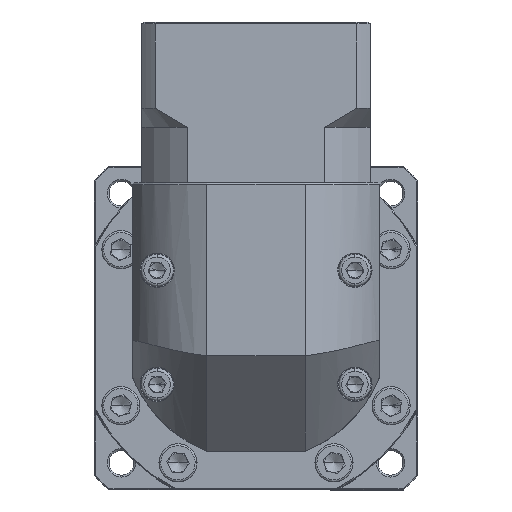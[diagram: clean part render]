
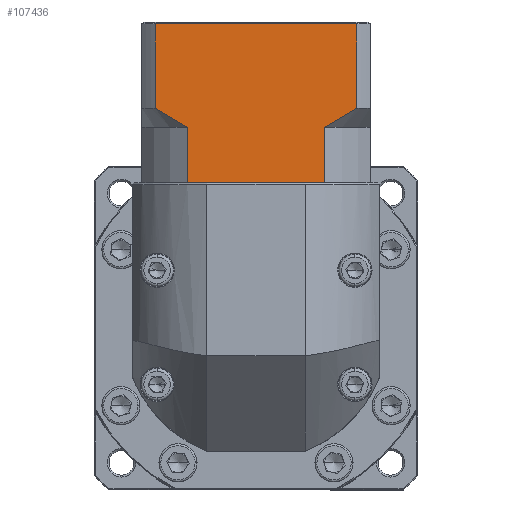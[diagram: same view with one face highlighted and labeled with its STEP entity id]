
A CAD part, top view. The second image highlights one B-rep face of the part: STEP entity #107436.
In plain terms, the highlighted planar face has unit normal (0, 0, 1).
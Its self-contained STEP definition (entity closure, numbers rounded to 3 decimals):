
#2352 = CARTESIAN_POINT ( 'NONE',  ( -102.297, 80.15, 55.04 ) ) ;
#4325 = FACE_OUTER_BOUND ( 'NONE', #72073, .T. ) ;
#5510 = VERTEX_POINT ( 'NONE', #57872 ) ;
#5659 = CARTESIAN_POINT ( 'NONE',  ( -54.928, 83.598, 55.04 ) ) ;
#8882 = VECTOR ( 'NONE', #119908, 1000. ) ;
#15360 = DIRECTION ( 'NONE',  ( 1., 0., 0. ) ) ;
#18267 = CARTESIAN_POINT ( 'NONE',  ( -107.843, 83.598, 55.04 ) ) ;
#22223 = VERTEX_POINT ( 'NONE', #157639 ) ;
#22634 = VERTEX_POINT ( 'NONE', #96094 ) ;
#24013 = VERTEX_POINT ( 'NONE', #67115 ) ;
#24732 = VERTEX_POINT ( 'NONE', #104057 ) ;
#25502 = CARTESIAN_POINT ( 'NONE',  ( -63.358, 78.598, 55.04 ) ) ;
#26724 = CARTESIAN_POINT ( 'NONE',  ( -111.386, 64.098, 55.04 ) ) ;
#26889 = EDGE_CURVE ( 'NONE', #22223, #22634, #30108, .T. ) ;
#30108 = LINE ( 'NONE', #134171, #107865 ) ;
#32363 = CARTESIAN_POINT ( 'NONE',  ( -111.386, 105.798, 55.04 ) ) ;
#34406 = EDGE_CURVE ( 'NONE', #50918, #5510, #148089, .T. ) ;
#35020 = CARTESIAN_POINT ( 'NONE',  ( -111.386, 64.098, 55.04 ) ) ;
#35640 = CARTESIAN_POINT ( 'NONE',  ( -54.928, 83.598, 55.04 ) ) ;
#38417 = CARTESIAN_POINT ( 'NONE',  ( -106.483, 82.699, 55.04 ) ) ;
#39430 = DIRECTION ( 'NONE',  ( 0., -1., 0. ) ) ;
#40487 = CARTESIAN_POINT ( 'NONE',  ( -107.843, 83.598, 55.04 ) ) ;
#40795 = CARTESIAN_POINT ( 'NONE',  ( -111.386, 64.098, 55.04 ) ) ;
#41047 = EDGE_CURVE ( 'NONE', #59353, #100212, #140060, .T. ) ;
#43634 = ORIENTED_EDGE ( 'NONE', *, *, #125442, .T. ) ;
#50438 = VERTEX_POINT ( 'NONE', #5659 ) ;
#50918 = VERTEX_POINT ( 'NONE', #107896 ) ;
#55787 = B_SPLINE_CURVE_WITH_KNOTS ( 'NONE', 3,
 ( #25502, #121058, #109847, #59978, #61556, #35640 ),
 .UNSPECIFIED., .F., .F.,
 ( 4, 2, 4 ),
 ( 0.1, 0.104, 0.109 ),
 .UNSPECIFIED. ) ;
#57600 = VECTOR ( 'NONE', #86263, 1000. ) ;
#57872 = CARTESIAN_POINT ( 'NONE',  ( -63.358, 64.098, 55.04 ) ) ;
#58185 = EDGE_CURVE ( 'NONE', #149997, #100212, #132584, .T. ) ;
#58453 = CARTESIAN_POINT ( 'NONE',  ( -107.843, 78.598, 55.04 ) ) ;
#59353 = VERTEX_POINT ( 'NONE', #111660 ) ;
#59978 = CARTESIAN_POINT ( 'NONE',  ( -57.671, 81.823, 55.04 ) ) ;
#61556 = CARTESIAN_POINT ( 'NONE',  ( -56.291, 82.697, 55.04 ) ) ;
#61879 = PLANE ( 'NONE',  #81120 ) ;
#63262 = CARTESIAN_POINT ( 'NONE',  ( -105.105, 81.826, 55.04 ) ) ;
#63755 = EDGE_CURVE ( 'NONE', #24732, #5510, #104144, .T. ) ;
#66682 = ORIENTED_EDGE ( 'NONE', *, *, #41047, .T. ) ;
#67115 = CARTESIAN_POINT ( 'NONE',  ( -98.423, 64.098, 55.04 ) ) ;
#67808 = ORIENTED_EDGE ( 'NONE', *, *, #34406, .T. ) ;
#70192 = ORIENTED_EDGE ( 'NONE', *, *, #144844, .T. ) ;
#72073 = EDGE_LOOP ( 'NONE', ( #115299, #66682, #130378, #43634, #136256, #102187, #151173, #67808, #99038, #70192 ) ) ;
#74854 = CARTESIAN_POINT ( 'NONE',  ( -63.358, 78.598, 55.04 ) ) ;
#76965 = CARTESIAN_POINT ( 'NONE',  ( -100.866, 79.346, 55.04 ) ) ;
#78415 = LINE ( 'NONE', #111225, #57600 ) ;
#78877 = EDGE_CURVE ( 'NONE', #22223, #24013, #113476, .T. ) ;
#79458 = VECTOR ( 'NONE', #39430, 1000. ) ;
#81120 = AXIS2_PLACEMENT_3D ( 'NONE', #125018, #137756, #101553 ) ;
#83074 = EDGE_CURVE ( 'NONE', #59353, #50438, #78415, .T. ) ;
#86263 = DIRECTION ( 'NONE',  ( 0., -1., 0. ) ) ;
#86611 = DIRECTION ( 'NONE',  ( 1., 0., 0. ) ) ;
#87006 = VECTOR ( 'NONE', #152409, 1000. ) ;
#87115 = CARTESIAN_POINT ( 'NONE',  ( -99.414, 78.598, 55.04 ) ) ;
#96094 = CARTESIAN_POINT ( 'NONE',  ( -99.414, 78.598, 55.04 ) ) ;
#98564 = DIRECTION ( 'NONE',  ( 0., 1., 0. ) ) ;
#99038 = ORIENTED_EDGE ( 'NONE', *, *, #63755, .F. ) ;
#100212 = VERTEX_POINT ( 'NONE', #148071 ) ;
#101553 = DIRECTION ( 'NONE',  ( 0., 1., 0. ) ) ;
#101912 = EDGE_CURVE ( 'NONE', #24013, #50918, #109474, .T. ) ;
#102187 = ORIENTED_EDGE ( 'NONE', *, *, #78877, .T. ) ;
#104057 = CARTESIAN_POINT ( 'NONE',  ( -63.358, 78.598, 55.04 ) ) ;
#104144 = LINE ( 'NONE', #74854, #79458 ) ;
#106141 = VECTOR ( 'NONE', #86611, 1000. ) ;
#106338 = B_SPLINE_CURVE_WITH_KNOTS ( 'NONE', 3,
 ( #40487, #38417, #63262, #2352, #76965, #87115 ),
 .UNSPECIFIED., .F., .F.,
 ( 4, 2, 4 ),
 ( 0.052, 0.057, 0.062 ),
 .UNSPECIFIED. ) ;
#107436 = ADVANCED_FACE ( 'NONE', ( #4325 ), #61879, .F. ) ;
#107865 = VECTOR ( 'NONE', #98564, 1000. ) ;
#107896 = CARTESIAN_POINT ( 'NONE',  ( -64.349, 64.098, 55.04 ) ) ;
#109474 = LINE ( 'NONE', #35020, #8882 ) ;
#109847 = CARTESIAN_POINT ( 'NONE',  ( -60.476, 80.149, 55.04 ) ) ;
#111225 = CARTESIAN_POINT ( 'NONE',  ( -54.928, 78.598, 55.04 ) ) ;
#111660 = CARTESIAN_POINT ( 'NONE',  ( -54.928, 105.798, 55.04 ) ) ;
#113476 = LINE ( 'NONE', #40795, #147693 ) ;
#115299 = ORIENTED_EDGE ( 'NONE', *, *, #83074, .F. ) ;
#119908 = DIRECTION ( 'NONE',  ( 1., 0., 0. ) ) ;
#121058 = CARTESIAN_POINT ( 'NONE',  ( -61.902, 79.349, 55.04 ) ) ;
#125018 = CARTESIAN_POINT ( 'NONE',  ( -111.386, 106.298, 55.04 ) ) ;
#125442 = EDGE_CURVE ( 'NONE', #149997, #22634, #106338, .T. ) ;
#130378 = ORIENTED_EDGE ( 'NONE', *, *, #58185, .F. ) ;
#131212 = DIRECTION ( 'NONE',  ( 0., 1., 0. ) ) ;
#132584 = LINE ( 'NONE', #58453, #155347 ) ;
#134171 = CARTESIAN_POINT ( 'NONE',  ( -99.414, 78.598, 55.04 ) ) ;
#136256 = ORIENTED_EDGE ( 'NONE', *, *, #26889, .F. ) ;
#137756 = DIRECTION ( 'NONE',  ( 0., 0., -1. ) ) ;
#140060 = LINE ( 'NONE', #32363, #87006 ) ;
#144844 = EDGE_CURVE ( 'NONE', #24732, #50438, #55787, .T. ) ;
#147693 = VECTOR ( 'NONE', #15360, 1000. ) ;
#148071 = CARTESIAN_POINT ( 'NONE',  ( -107.843, 105.798, 55.04 ) ) ;
#148089 = LINE ( 'NONE', #26724, #106141 ) ;
#149997 = VERTEX_POINT ( 'NONE', #18267 ) ;
#151173 = ORIENTED_EDGE ( 'NONE', *, *, #101912, .T. ) ;
#152409 = DIRECTION ( 'NONE',  ( -1., 0., 0. ) ) ;
#155347 = VECTOR ( 'NONE', #131212, 1000. ) ;
#157639 = CARTESIAN_POINT ( 'NONE',  ( -99.414, 64.098, 55.04 ) ) ;
